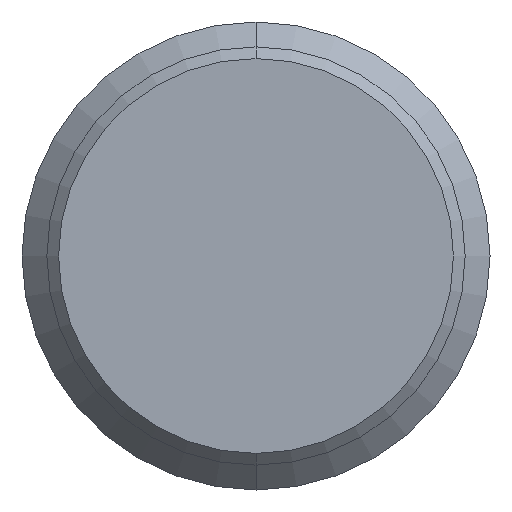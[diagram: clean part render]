
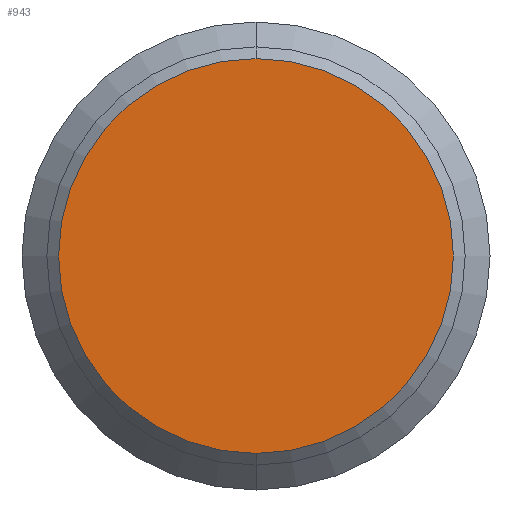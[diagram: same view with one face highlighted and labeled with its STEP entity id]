
A CAD part, front view. The second image highlights one B-rep face of the part: STEP entity #943.
In plain terms, the highlighted planar face has unit normal (0, -1, 0).
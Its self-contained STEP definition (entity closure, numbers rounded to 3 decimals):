
#918=CARTESIAN_POINT('',(0.0,-44.5,-6.75));
#919=VERTEX_POINT('',#918);
#920=CARTESIAN_POINT('',(0.0,-44.5,6.75));
#921=VERTEX_POINT('',#920);
#922=CARTESIAN_POINT('',(0.0,-44.5,0.0));
#923=DIRECTION('',(0.0,-1.0,0.0));
#924=DIRECTION('',(0.0,0.0,-1.0));
#925=AXIS2_PLACEMENT_3D('',#922,#923,#924);
#926=CIRCLE('',#925,6.75);
#927=EDGE_CURVE('no 2645',#919,#921,#926,.T.);
#928=ORIENTED_EDGE('',*,*,#927,.T.);
#929=CARTESIAN_POINT('',(0.0,-44.5,0.0));
#930=DIRECTION('',(0.0,-1.0,0.0));
#931=DIRECTION('',(0.0,0.0,-1.0));
#932=AXIS2_PLACEMENT_3D('',#929,#930,#931);
#933=CIRCLE('',#932,6.75);
#934=EDGE_CURVE('no 2649',#921,#919,#933,.T.);
#935=ORIENTED_EDGE('',*,*,#934,.T.);
#936=EDGE_LOOP('',(#928,#935));
#937=FACE_OUTER_BOUND('',#936,.T.);
#938=CARTESIAN_POINT('',(0.0,-44.5,0.0));
#939=DIRECTION('',(0.0,-1.0,0.0));
#940=DIRECTION('',(0.0,0.0,-1.0));
#941=AXIS2_PLACEMENT_3D('',#938,#939,#940);
#942=PLANE('',#941);
#943=ADVANCED_FACE('no 2636',(#937),#942,.T.);
